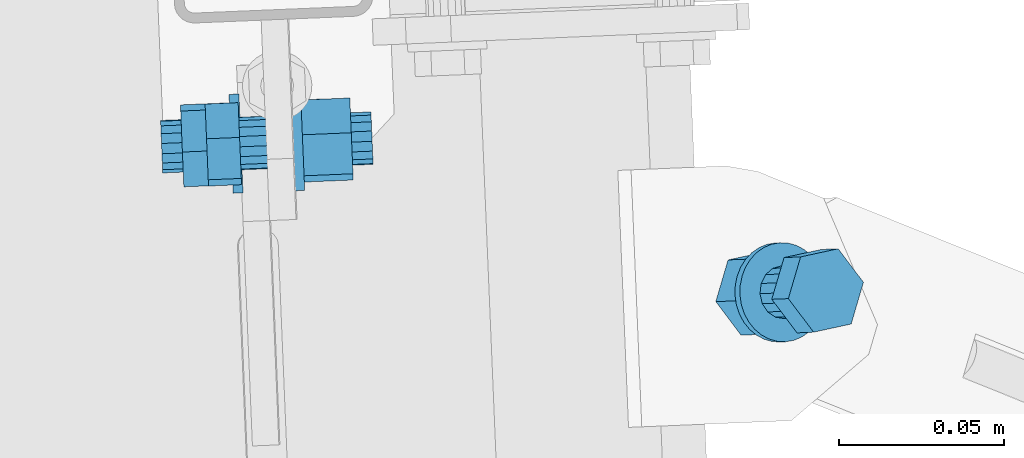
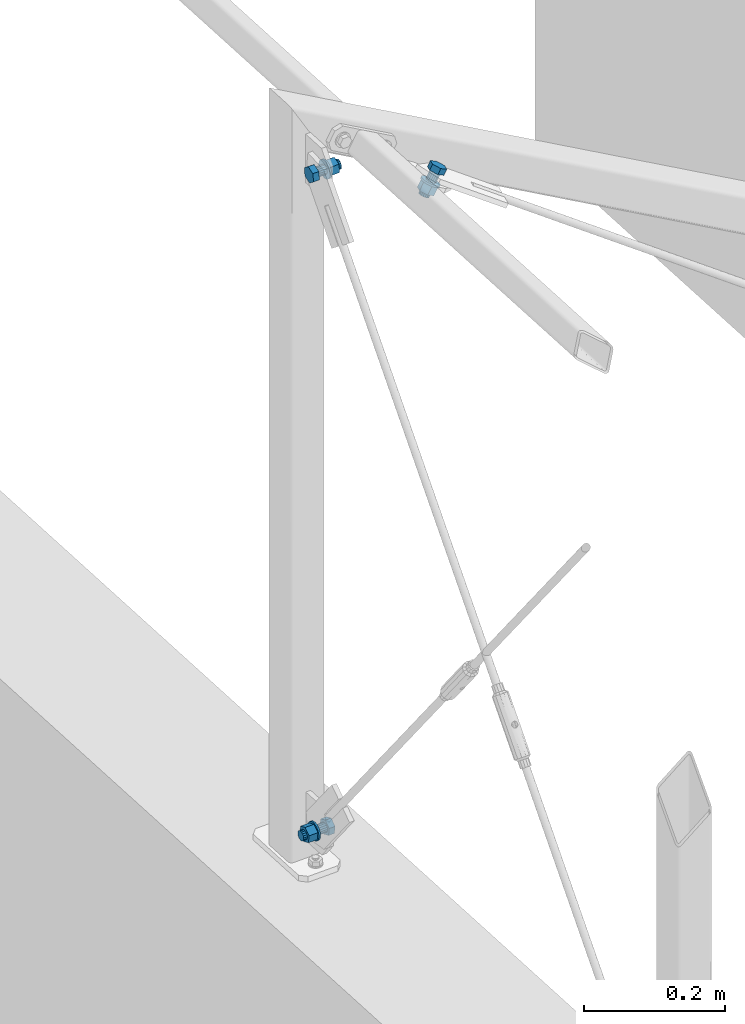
# One storey, part 239 of 288: 3 mechanical fasteners.
"""IFC2X3 building model written with IfcOpenShell, lengths in millimetres."""

from ifc_helpers import new_model, entity, si_unit, converted_unit, origin_with_axes, place, context, project, spatial, faceted_brep, element, save


model = new_model("IFC2X3")

# Units and contexts
model_context = context("Model", 3, precision=1e-09, world=origin_with_axes())
ifc_project = project(units=[si_unit("LENGTHUNIT", "METRE", prefix="MILLI"), si_unit("AREAUNIT", "SQUARE_METRE"), si_unit("VOLUMEUNIT", "CUBIC_METRE"), converted_unit("PLANEANGLEUNIT", "DEGREE", entity("IfcPlaneAngleMeasure", 0.01745329), si_unit("PLANEANGLEUNIT", "RADIAN"), dimensions=[0, 0, 0, 0, 0, 0, 0])], contexts=[model_context])

# Site, building, storey
site_placement = place(None, origin_with_axes())
site = spatial("IfcSite", under=ifc_project, at=site_placement, Name="Remont ?wietlik?w nad MC w NCPP w Opolu", CompositionType="ELEMENT")
building_placement = place(site_placement, origin_with_axes())
building = spatial("IfcBuilding", under=site, at=building_placement, Name="Konstrukcja 1", CompositionType="ELEMENT")
storey_placement = place(building_placement, origin_with_axes())
storey = spatial("IfcBuildingStorey", under=building, at=storey_placement, Name="Default Storey", CompositionType="ELEMENT", Elevation=0.0)

# Mechanical fasteners
mechanical_fastener_1_placement = place(None, origin_with_axes())
element("IfcMechanicalFastener", 1, at=mechanical_fastener_1_placement, inside=storey, ObjectType="Bolt#1", NominalDiameter=16.0, NominalLength=40.0, context=model_context, shape_type="Brep", body=[
    faceted_brep([(-604.976108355, 11217.415886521, 1209.294852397), (-614.967421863, 11216.999167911, 1209.294852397), (-615.484584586, 11229.39874589, 1214.282199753), (-605.493271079, 11229.815464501, 1214.282199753), (-615.563178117, 11231.283117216, 1227.523558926), (-605.571864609, 11231.699835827, 1227.523558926), (-615.124608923, 11220.767910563, 1235.777570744), (-605.133295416, 11221.184629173, 1235.777570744), (-614.607446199, 11208.368332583, 1230.790223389), (-604.616132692, 11208.785051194, 1230.790223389), (-614.528852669, 11206.483961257, 1217.548864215), (-604.537539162, 11206.900679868, 1217.548864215)], [[[0, 1, 2, 3]], [[3, 2, 4, 5]], [[5, 4, 6, 7]], [[7, 6, 8, 9]], [[9, 8, 10, 11]], [[11, 10, 1, 0]], [[4, 2, 1, 10, 8, 6]], [[0, 3, 5, 7, 9, 11]]]),
    faceted_brep([(-605.26043499, 11224.232948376, 1228.831149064), (-589.274333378, 11224.899698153, 1228.831149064), (-589.35905907, 11226.931095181, 1226.462675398), (-605.345160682, 11226.264345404, 1226.462675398), (-589.399565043, 11227.902273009, 1223.496433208), (-605.385666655, 11227.235523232, 1223.496433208), (-589.38968463, 11227.665378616, 1220.384005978), (-605.375786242, 11226.998628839, 1220.384005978), (-589.330922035, 11226.256477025, 1217.599232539), (-605.317023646, 11225.589727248, 1217.599232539), (-589.232223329, 11223.890060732, 1215.566069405), (-605.218324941, 11223.223310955, 1215.566069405), (-589.108614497, 11220.926395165, 1214.594047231), (-605.094716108, 11220.259645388, 1214.594047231), (-588.978913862, 11217.816671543, 1214.831147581), (-604.965015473, 11217.149921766, 1214.831147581), (-588.86286717, 11215.034317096, 1216.241274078), (-604.848968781, 11214.367567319, 1216.241274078), (-588.778141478, 11213.002920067, 1218.609747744), (-604.76424309, 11212.33617029, 1218.609747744), (-588.737635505, 11212.031742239, 1221.575989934), (-604.723737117, 11211.364992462, 1221.575989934), (-588.747515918, 11212.268636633, 1224.688417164), (-604.73361753, 11211.601886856, 1224.688417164), (-588.806278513, 11213.677538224, 1227.473190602), (-604.792380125, 11213.010788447, 1227.473190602), (-588.904977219, 11216.043954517, 1229.506353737), (-604.891078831, 11215.37720474, 1229.506353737), (-589.028586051, 11219.007620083, 1230.478375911), (-605.014687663, 11218.340870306, 1230.478375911), (-589.158286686, 11222.117343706, 1230.24127556), (-605.144388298, 11221.450593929, 1230.24127556)], [[[0, 1, 2, 3]], [[3, 2, 4, 5]], [[5, 4, 6, 7]], [[7, 6, 8, 9]], [[9, 8, 10, 11]], [[11, 10, 12, 13]], [[13, 12, 14, 15]], [[15, 14, 16, 17]], [[17, 16, 18, 19]], [[19, 18, 20, 21]], [[21, 20, 22, 23]], [[23, 22, 24, 25]], [[25, 24, 26, 27]], [[27, 26, 28, 29]], [[29, 28, 30, 31]], [[31, 30, 1, 0]], [[0, 3, 5, 7, 9, 11, 13, 15, 17, 19, 21, 23, 25, 27, 29, 31]], [[1, 30, 28, 26, 24, 22, 20, 18, 16, 14, 12, 10, 8, 6, 4, 2]]]),
    faceted_brep([(-589.454349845, 11229.215802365, 1234.339219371), (-586.456955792, 11229.340817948, 1234.339219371), (-586.545499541, 11231.463757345, 1232.306508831), (-589.542893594, 11231.338741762, 1232.306508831), (-586.615816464, 11233.149687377, 1229.898331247), (-589.613210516, 11233.024671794, 1229.898331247), (-586.665204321, 11234.333818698, 1227.207231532), (-589.662598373, 11234.208803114, 1227.207231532), (-586.691765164, 11234.970645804, 1224.33662714), (-589.689159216, 11234.845630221, 1224.33662714), (-586.694478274, 11235.035695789, 1221.396833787), (-589.691872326, 11234.910680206, 1221.396833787), (-586.673239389, 11234.526468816, 1218.500826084), (-589.670633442, 11234.401453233, 1218.500826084), (-586.628864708, 11233.462534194, 1215.759895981), (-589.62625876, 11233.337518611, 1215.759895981), (-586.563059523, 11231.884778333, 1213.279375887), (-589.560453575, 11231.75976275, 1213.279375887), (-586.478352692, 11229.853833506, 1211.154590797), (-589.475746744, 11229.728817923, 1211.154590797), (-586.37799945, 11227.447747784, 1209.46719501), (-589.375393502, 11227.3227322, 1209.46719501), (-586.265856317, 11224.758985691, 1208.2820342), (-589.263250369, 11224.633970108, 1208.2820342), (-586.146232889, 11221.890874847, 1207.644653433), (-589.143626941, 11221.765859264, 1207.644653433), (-586.023726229, 11218.953635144, 1207.579546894), (-589.021120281, 11218.82861956, 1207.579546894), (-585.903044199, 11216.060143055, 1208.08921659), (-588.900438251, 11215.935127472, 1208.08921659), (-585.78882454, 11213.32159386, 1209.154076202), (-588.786218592, 11213.196578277, 1209.154076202), (-585.685456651, 11210.843228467, 1210.733203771), (-588.682850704, 11210.718212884, 1210.733203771), (-585.596912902, 11208.72028907, 1212.765914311), (-588.594306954, 11208.595273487, 1212.765914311), (-585.52659598, 11207.034359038, 1215.174091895), (-588.523990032, 11206.909343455, 1215.174091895), (-585.477208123, 11205.850227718, 1217.865191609), (-588.474602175, 11205.725212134, 1217.865191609), (-585.45064728, 11205.213400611, 1220.735796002), (-588.448041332, 11205.088385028, 1220.735796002), (-585.447934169, 11205.148350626, 1223.675589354), (-588.445328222, 11205.023335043, 1223.675589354), (-585.469173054, 11205.657577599, 1226.571597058), (-588.466567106, 11205.532562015, 1226.571597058), (-585.513547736, 11206.721512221, 1229.31252716), (-588.510941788, 11206.596496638, 1229.31252716), (-585.579352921, 11208.299268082, 1231.793047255), (-588.576746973, 11208.174252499, 1231.793047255), (-585.664059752, 11210.330212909, 1233.917832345), (-588.661453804, 11210.205197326, 1233.917832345), (-585.764412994, 11212.736298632, 1235.605228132), (-588.761807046, 11212.611283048, 1235.605228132), (-585.876556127, 11215.425060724, 1236.790388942), (-588.873950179, 11215.300045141, 1236.790388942), (-585.996179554, 11218.293171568, 1237.427769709), (-588.993573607, 11218.168155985, 1237.427769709), (-586.118686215, 11221.230411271, 1237.492876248), (-589.116080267, 11221.105395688, 1237.492876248), (-586.239368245, 11224.12390336, 1236.983206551), (-589.236762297, 11223.998887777, 1236.983206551), (-586.353587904, 11226.862452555, 1235.91834694), (-589.350981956, 11226.737436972, 1235.91834694)], [[[0, 1, 2, 3]], [[3, 2, 4, 5]], [[5, 4, 6, 7]], [[7, 6, 8, 9]], [[9, 8, 10, 11]], [[11, 10, 12, 13]], [[13, 12, 14, 15]], [[15, 14, 16, 17]], [[17, 16, 18, 19]], [[19, 18, 20, 21]], [[21, 20, 22, 23]], [[23, 22, 24, 25]], [[25, 24, 26, 27]], [[27, 26, 28, 29]], [[29, 28, 30, 31]], [[31, 30, 32, 33]], [[33, 32, 34, 35]], [[35, 34, 36, 37]], [[37, 36, 38, 39]], [[39, 38, 40, 41]], [[41, 40, 42, 43]], [[43, 42, 44, 45]], [[45, 44, 46, 47]], [[47, 46, 48, 49]], [[49, 48, 50, 51]], [[51, 50, 52, 53]], [[53, 52, 54, 55]], [[55, 54, 56, 57]], [[57, 56, 58, 59]], [[59, 58, 60, 61]], [[61, 60, 62, 63]], [[63, 62, 1, 0]], [[0, 3, 5, 7, 9, 11, 13, 15, 17, 19, 21, 23, 25, 27, 29, 31, 33, 35, 37, 39, 41, 43, 45, 47, 49, 51, 53, 55, 57, 59, 61, 63]], [[1, 62, 60, 58, 56, 54, 52, 50, 48, 46, 44, 42, 40, 38, 36, 34, 32, 30, 28, 26, 24, 22, 20, 18, 16, 14, 12, 10, 8, 6, 4, 2]]]),
    faceted_brep([(-571.205468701, 11218.824395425, 1209.294852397), (-585.992612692, 11218.207651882, 1209.294852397), (-586.509775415, 11230.607229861, 1214.282199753), (-571.722631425, 11231.223973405, 1214.282199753), (-586.588368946, 11232.491601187, 1227.523558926), (-571.801224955, 11233.108344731, 1227.523558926), (-586.149799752, 11221.976394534, 1235.777570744), (-571.362655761, 11222.593138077, 1235.777570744), (-585.632637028, 11209.576816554, 1230.790223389), (-570.845493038, 11210.193560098, 1230.790223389), (-585.554043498, 11207.692445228, 1217.548864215), (-570.766899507, 11208.309188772, 1217.548864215)], [[[0, 1, 2, 3]], [[3, 2, 4, 5]], [[5, 4, 6, 7]], [[7, 6, 8, 9]], [[9, 8, 10, 11]], [[11, 10, 1, 0]], [[4, 2, 1, 10, 8, 6]], [[0, 3, 5, 7, 9, 11]]]),
    faceted_brep([(-571.489795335, 11225.641457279, 1228.831149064), (-565.295180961, 11225.899822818, 1228.831149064), (-565.379906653, 11227.931219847, 1226.462675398), (-571.574521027, 11227.672854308, 1226.462675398), (-565.420412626, 11228.902397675, 1223.496433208), (-571.615027, 11228.644032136, 1223.496433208), (-565.410532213, 11228.665503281, 1220.384005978), (-571.605146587, 11228.407137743, 1220.384005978), (-565.351769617, 11227.25660169, 1217.599232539), (-571.546383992, 11226.998236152, 1217.599232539), (-565.253070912, 11224.890185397, 1215.566069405), (-571.447685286, 11224.631819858, 1215.566069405), (-565.129462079, 11221.926519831, 1214.594047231), (-571.324076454, 11221.668154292, 1214.594047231), (-564.999761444, 11218.816796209, 1214.831147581), (-571.194375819, 11218.55843067, 1214.831147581), (-564.883714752, 11216.034441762, 1216.241274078), (-571.078329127, 11215.776076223, 1216.241274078), (-564.798989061, 11214.003044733, 1218.609747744), (-570.993603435, 11213.744679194, 1218.609747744), (-564.758483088, 11213.031866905, 1221.575989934), (-570.953097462, 11212.773501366, 1221.575989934), (-564.768363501, 11213.268761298, 1224.688417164), (-570.962977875, 11213.01039576, 1224.688417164), (-564.827126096, 11214.67766289, 1227.473190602), (-571.021740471, 11214.419297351, 1227.473190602), (-564.925824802, 11217.044079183, 1229.506353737), (-571.120439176, 11216.785713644, 1229.506353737), (-565.049433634, 11220.007744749, 1230.478375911), (-571.244048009, 11219.74937921, 1230.478375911), (-565.179134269, 11223.117468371, 1230.24127556), (-571.373748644, 11222.859102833, 1230.24127556)], [[[0, 1, 2, 3]], [[3, 2, 4, 5]], [[5, 4, 6, 7]], [[7, 6, 8, 9]], [[9, 8, 10, 11]], [[11, 10, 12, 13]], [[13, 12, 14, 15]], [[15, 14, 16, 17]], [[17, 16, 18, 19]], [[19, 18, 20, 21]], [[21, 20, 22, 23]], [[23, 22, 24, 25]], [[25, 24, 26, 27]], [[27, 26, 28, 29]], [[29, 28, 30, 31]], [[31, 30, 1, 0]], [[0, 3, 5, 7, 9, 11, 13, 15, 17, 19, 21, 23, 25, 27, 29, 31]], [[1, 30, 28, 26, 24, 22, 20, 18, 16, 14, 12, 10, 8, 6, 4, 2]]]),
])
mechanical_fastener_2_placement = place(None, origin_with_axes())
element("IfcMechanicalFastener", 2, at=mechanical_fastener_2_placement, inside=storey, ObjectType="Bolt#1", NominalDiameter=16.0, NominalLength=40.0, context=model_context, shape_type="Brep", body=[
    faceted_brep([(-588.64994347, 11218.161192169, 95.778077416), (-578.658481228, 11218.574329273, 95.778077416), (-579.170965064, 11230.968430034, 90.776652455), (-589.162427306, 11230.55529293, 90.776652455), (-579.248262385, 11232.837817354, 77.533161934), (-589.239724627, 11232.42468025, 77.533161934), (-578.81307587, 11222.313103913, 69.291096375), (-588.804538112, 11221.899966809, 69.291096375), (-578.300592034, 11209.919003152, 74.292521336), (-588.292054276, 11209.505866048, 74.292521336), (-578.223294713, 11208.049615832, 87.536011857), (-588.214756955, 11207.636478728, 87.536011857)], [[[0, 1, 2, 3]], [[3, 2, 4, 5]], [[5, 4, 6, 7]], [[7, 6, 8, 9]], [[9, 8, 10, 11]], [[11, 10, 1, 0]], [[4, 2, 1, 10, 8, 6]], [[0, 3, 5, 7, 9, 11]]]),
    faceted_brep([(-588.930910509, 11224.956204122, 76.234051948), (-604.917250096, 11224.295184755, 76.234051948), (-605.001358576, 11226.329295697, 78.600217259), (-589.015018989, 11226.990315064, 78.600217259), (-605.041655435, 11227.303849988, 81.565354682), (-589.055315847, 11227.964869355, 81.565354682), (-605.03200584, 11227.070480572, 84.678048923), (-589.045666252, 11227.731499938, 84.678048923), (-604.973878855, 11225.664715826, 87.464420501), (-588.987539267, 11226.325735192, 87.464420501), (-604.876123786, 11223.30057069, 89.500269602), (-588.889784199, 11223.961590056, 89.500269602), (-604.753622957, 11220.337964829, 90.475656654), (-588.76728337, 11220.998984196, 90.475656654), (-604.625026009, 11217.227928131, 90.242087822), (-588.638686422, 11217.888947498, 90.242087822), (-604.50991066, 11214.44393549, 88.835121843), (-588.523571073, 11215.104954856, 88.835121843), (-604.42580218, 11212.409824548, 86.468956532), (-588.439462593, 11213.070843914, 86.468956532), (-604.385505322, 11211.435270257, 83.503819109), (-588.399165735, 11212.096289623, 83.503819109), (-604.395154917, 11211.668639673, 80.391124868), (-588.40881533, 11212.32965904, 80.391124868), (-604.453281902, 11213.074404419, 77.60475329), (-588.466942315, 11213.735423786, 77.60475329), (-604.551036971, 11215.438549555, 75.568904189), (-588.564697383, 11216.099568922, 75.568904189), (-604.673537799, 11218.401155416, 74.593517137), (-588.687198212, 11219.062174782, 74.593517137), (-604.802134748, 11221.511192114, 74.827085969), (-588.815795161, 11222.17221148, 74.827085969)], [[[0, 1, 2, 3]], [[3, 2, 4, 5]], [[5, 4, 6, 7]], [[7, 6, 8, 9]], [[9, 8, 10, 11]], [[11, 10, 12, 13]], [[13, 12, 14, 15]], [[15, 14, 16, 17]], [[17, 16, 18, 19]], [[19, 18, 20, 21]], [[21, 20, 22, 23]], [[23, 22, 24, 25]], [[25, 24, 26, 27]], [[27, 26, 28, 29]], [[29, 28, 30, 31]], [[31, 30, 1, 0]], [[0, 3, 5, 7, 9, 11, 13, 15, 17, 19, 21, 23, 25, 27, 29, 31]], [[1, 30, 28, 26, 24, 22, 20, 18, 16, 14, 12, 10, 8, 6, 4, 2]]]),
    faceted_brep([(-605.095461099, 11228.605106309, 70.721083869), (-608.092899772, 11228.481165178, 70.721083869), (-608.180777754, 11230.60643916, 72.751382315), (-605.183339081, 11230.730380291, 72.751382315), (-608.250603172, 11232.295123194, 75.157643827), (-605.2531645, 11232.419064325, 75.157643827), (-608.299692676, 11233.4823221, 77.847397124), (-605.302254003, 11233.606263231, 77.847397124), (-608.326159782, 11234.12241249, 80.717276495), (-605.328721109, 11234.246353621, 80.717276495), (-608.328987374, 11234.190796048, 83.656994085), (-605.331548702, 11234.314737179, 83.656994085), (-608.308066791, 11233.684844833, 86.553578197), (-605.310628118, 11233.808785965, 86.553578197), (-608.264201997, 11232.624002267, 89.295714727), (-605.266763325, 11232.747943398, 89.295714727), (-608.199078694, 11231.049035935, 91.778024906), (-605.201640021, 11231.172977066, 91.778024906), (-608.115199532, 11229.020470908, 93.905114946), (-605.117760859, 11229.144412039, 93.905114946), (-608.015787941, 11226.616263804, 95.59524197), (-605.018349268, 11226.740204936, 95.59524197), (-607.904664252, 11223.928806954, 96.783455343), (-604.907225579, 11224.052748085, 96.783455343), (-607.786098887, 11221.061377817, 97.424092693), (-604.788660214, 11221.185318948, 97.424092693), (-607.664648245, 11218.124170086, 97.492534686), (-604.667209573, 11218.248111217, 97.492534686), (-607.544979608, 11215.230059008, 96.986151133), (-604.547540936, 11215.354000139, 96.986151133), (-607.431691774, 11212.490263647, 95.924402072), (-604.434253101, 11212.614204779, 95.924402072), (-607.32913833, 11210.010072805, 94.348089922), (-604.331699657, 11210.134013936, 94.348089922), (-607.241260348, 11207.884798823, 92.317791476), (-604.243821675, 11208.008739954, 92.317791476), (-607.17143493, 11206.196114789, 89.911529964), (-604.173996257, 11206.32005592, 89.911529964), (-607.122345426, 11205.008915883, 87.221776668), (-604.124906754, 11205.132857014, 87.221776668), (-607.09587832, 11204.368825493, 84.351897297), (-604.098439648, 11204.492766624, 84.351897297), (-607.093050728, 11204.300441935, 81.412179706), (-604.095612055, 11204.424383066, 81.412179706), (-607.113971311, 11204.806393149, 78.515595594), (-604.116532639, 11204.930334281, 78.515595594), (-607.157836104, 11205.867235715, 75.773459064), (-604.160397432, 11205.991176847, 75.773459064), (-607.222959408, 11207.442202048, 73.291148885), (-604.225520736, 11207.566143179, 73.291148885), (-607.30683857, 11209.470767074, 71.164058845), (-604.309399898, 11209.594708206, 71.164058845), (-607.406250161, 11211.874974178, 69.473931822), (-604.408811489, 11211.998915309, 69.473931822), (-607.51737385, 11214.562431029, 68.285718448), (-604.519935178, 11214.68637216, 68.285718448), (-607.635939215, 11217.429860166, 67.645081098), (-604.638500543, 11217.553801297, 67.645081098), (-607.757389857, 11220.367067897, 67.576639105), (-604.759951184, 11220.491009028, 67.576639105), (-607.877058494, 11223.261178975, 68.083022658), (-604.879619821, 11223.385120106, 68.083022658), (-607.990346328, 11226.000974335, 69.144771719), (-604.992907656, 11226.124915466, 69.144771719)], [[[0, 1, 2, 3]], [[3, 2, 4, 5]], [[5, 4, 6, 7]], [[7, 6, 8, 9]], [[9, 8, 10, 11]], [[11, 10, 12, 13]], [[13, 12, 14, 15]], [[15, 14, 16, 17]], [[17, 16, 18, 19]], [[19, 18, 20, 21]], [[21, 20, 22, 23]], [[23, 22, 24, 25]], [[25, 24, 26, 27]], [[27, 26, 28, 29]], [[29, 28, 30, 31]], [[31, 30, 32, 33]], [[33, 32, 34, 35]], [[35, 34, 36, 37]], [[37, 36, 38, 39]], [[39, 38, 40, 41]], [[41, 40, 42, 43]], [[43, 42, 44, 45]], [[45, 44, 46, 47]], [[47, 46, 48, 49]], [[49, 48, 50, 51]], [[51, 50, 52, 53]], [[53, 52, 54, 55]], [[55, 54, 56, 57]], [[57, 56, 58, 59]], [[59, 58, 60, 61]], [[61, 60, 62, 63]], [[63, 62, 1, 0]], [[0, 3, 5, 7, 9, 11, 13, 15, 17, 19, 21, 23, 25, 27, 29, 31, 33, 35, 37, 39, 41, 43, 45, 47, 49, 51, 53, 55, 57, 59, 61, 63]], [[1, 62, 60, 58, 56, 54, 52, 50, 48, 46, 44, 42, 40, 38, 36, 34, 32, 30, 28, 26, 24, 22, 20, 18, 16, 14, 12, 10, 8, 6, 4, 2]]]),
    faceted_brep([(-622.421085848, 11216.764788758, 95.778077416), (-607.63372173, 11217.376231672, 95.778077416), (-608.146205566, 11229.770332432, 90.776652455), (-622.933569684, 11229.158889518, 90.776652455), (-608.223502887, 11231.639719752, 77.533161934), (-623.010867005, 11231.028276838, 77.533161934), (-607.788316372, 11221.115006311, 69.291096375), (-622.57568049, 11220.503563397, 69.291096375), (-607.275832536, 11208.72090555, 74.292521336), (-622.063196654, 11208.109462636, 74.292521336), (-607.198535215, 11206.85151823, 87.536011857), (-621.985899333, 11206.240075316, 87.536011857)], [[[0, 1, 2, 3]], [[3, 2, 4, 5]], [[5, 4, 6, 7]], [[7, 6, 8, 9]], [[9, 8, 10, 11]], [[11, 10, 1, 0]], [[4, 2, 1, 10, 8, 6]], [[0, 3, 5, 7, 9, 11]]]),
    faceted_brep([(-622.702052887, 11223.55980071, 76.234051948), (-628.896759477, 11223.303655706, 76.234051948), (-628.980867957, 11225.337766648, 78.600217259), (-622.786161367, 11225.593911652, 78.600217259), (-629.021164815, 11226.312320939, 81.565354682), (-622.826458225, 11226.568465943, 81.565354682), (-629.01151522, 11226.078951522, 84.678048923), (-622.81680863, 11226.335096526, 84.678048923), (-628.953388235, 11224.673186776, 87.464420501), (-622.758681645, 11224.92933178, 87.464420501), (-628.855633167, 11222.30904164, 89.500269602), (-622.660926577, 11222.565186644, 89.500269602), (-628.733132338, 11219.34643578, 90.475656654), (-622.538425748, 11219.602580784, 90.475656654), (-628.60453539, 11216.236399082, 90.242087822), (-622.4098288, 11216.492544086, 90.242087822), (-628.489420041, 11213.45240644, 88.835121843), (-622.294713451, 11213.708551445, 88.835121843), (-628.405311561, 11211.418295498, 86.468956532), (-622.210604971, 11211.674440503, 86.468956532), (-628.365014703, 11210.443741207, 83.503819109), (-622.170308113, 11210.699886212, 83.503819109), (-628.374664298, 11210.677110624, 80.391124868), (-622.179957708, 11210.933255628, 80.391124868), (-628.432791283, 11212.08287537, 77.60475329), (-622.238084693, 11212.339020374, 77.60475329), (-628.530546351, 11214.447020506, 75.568904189), (-622.335839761, 11214.70316551, 75.568904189), (-628.65304718, 11217.409626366, 74.593517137), (-622.45834059, 11217.665771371, 74.593517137), (-628.781644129, 11220.519663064, 74.827085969), (-622.586937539, 11220.775808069, 74.827085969)], [[[0, 1, 2, 3]], [[3, 2, 4, 5]], [[5, 4, 6, 7]], [[7, 6, 8, 9]], [[9, 8, 10, 11]], [[11, 10, 12, 13]], [[13, 12, 14, 15]], [[15, 14, 16, 17]], [[17, 16, 18, 19]], [[19, 18, 20, 21]], [[21, 20, 22, 23]], [[23, 22, 24, 25]], [[25, 24, 26, 27]], [[27, 26, 28, 29]], [[29, 28, 30, 31]], [[31, 30, 1, 0]], [[0, 3, 5, 7, 9, 11, 13, 15, 17, 19, 21, 23, 25, 27, 29, 31]], [[1, 30, 28, 26, 24, 22, 20, 18, 16, 14, 12, 10, 8, 6, 4, 2]]]),
])
mechanical_fastener_3_placement = place(None, origin_with_axes())
element("IfcMechanicalFastener", 3, at=mechanical_fastener_3_placement, inside=storey, ObjectType="Bolt#1", NominalDiameter=16.0, NominalLength=40.0, context=model_context, shape_type="Brep", body=[
    faceted_brep([(-425.210542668, 11164.554594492, 1188.24472593), (-420.202872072, 11164.76325416, 1196.898031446), (-431.554218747, 11162.29354336, 1203.526612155), (-436.561889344, 11162.084883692, 1194.87330664), (-439.200470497, 11172.440030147, 1207.706835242), (-444.208141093, 11172.23137048, 1199.053529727), (-435.495375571, 11185.056227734, 1205.25847762), (-440.503046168, 11184.847568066, 1196.605172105), (-424.144028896, 11187.525938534, 1198.629896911), (-429.151699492, 11187.317278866, 1189.976591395), (-416.497777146, 11177.379451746, 1194.449673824), (-421.505447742, 11177.170792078, 1185.796368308)], [[[0, 1, 2, 3]], [[3, 2, 4, 5]], [[5, 4, 6, 7]], [[7, 6, 8, 9]], [[9, 8, 10, 11]], [[11, 10, 1, 0]], [[4, 2, 1, 10, 8, 6]], [[0, 3, 5, 7, 9, 11]]]),
    faceted_brep([(-439.417254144, 11177.352110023, 1196.157564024), (-447.429527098, 11177.018254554, 1182.3122752), (-447.778218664, 11173.928675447, 1182.588563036), (-439.76594571, 11174.262530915, 1196.43385186), (-447.075054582, 11170.905861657, 1182.254531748), (-439.062781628, 11171.239717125, 1196.099820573), (-445.427085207, 11168.410009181, 1181.361034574), (-437.414812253, 11168.74386465, 1195.206323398), (-443.08519894, 11166.821088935, 1180.044098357), (-435.072925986, 11167.154944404, 1193.889387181), (-440.405926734, 11166.380999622, 1178.504214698), (-432.39365378, 11166.714855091, 1192.349503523), (-437.797163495, 11167.156740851, 1176.975816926), (-429.784890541, 11167.49059632, 1190.821105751), (-435.656069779, 11169.030213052, 1175.691589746), (-427.643796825, 11169.36406852, 1189.536878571), (-434.308607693, 11171.716197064, 1174.847045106), (-426.296334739, 11172.050052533, 1188.69233393), (-433.959916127, 11174.805776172, 1174.57075727), (-425.947643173, 11175.139631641, 1188.416046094), (-434.663080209, 11177.828589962, 1174.904788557), (-426.650807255, 11178.162445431, 1188.750077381), (-436.311049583, 11180.324442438, 1175.798285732), (-428.298776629, 11180.658297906, 1189.643574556), (-438.652935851, 11181.913362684, 1177.115221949), (-430.640662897, 11182.247218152, 1190.960510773), (-441.332208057, 11182.353451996, 1178.655105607), (-433.319935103, 11182.687307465, 1192.500394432), (-443.940971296, 11181.577710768, 1180.183503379), (-435.928698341, 11181.911566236, 1194.028792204), (-446.082065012, 11179.704238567, 1181.467730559), (-438.069792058, 11180.038094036, 1195.313019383)], [[[0, 1, 2, 3]], [[3, 2, 4, 5]], [[5, 4, 6, 7]], [[7, 6, 8, 9]], [[9, 8, 10, 11]], [[11, 10, 12, 13]], [[13, 12, 14, 15]], [[15, 14, 16, 17]], [[17, 16, 18, 19]], [[19, 18, 20, 21]], [[21, 20, 22, 23]], [[23, 22, 24, 25]], [[25, 24, 26, 27]], [[27, 26, 28, 29]], [[29, 28, 30, 31]], [[31, 30, 1, 0]], [[0, 3, 5, 7, 9, 11, 13, 15, 17, 19, 21, 23, 25, 27, 29, 31]], [[1, 30, 28, 26, 24, 22, 20, 18, 16, 14, 12, 10, 8, 6, 4, 2]]]),
    faceted_brep([(-453.169929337, 11179.337904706, 1185.578313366), (-454.672230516, 11179.275306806, 1182.982321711), (-455.246521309, 11176.419462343, 1183.383527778), (-453.74422013, 11176.482060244, 1185.979519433), (-455.326027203, 11173.482345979, 1183.500361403), (-453.823726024, 11173.54494388, 1186.096353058), (-454.907692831, 11170.576829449, 1183.328332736), (-453.405391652, 11170.639427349, 1185.92432439), (-454.007594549, 11167.814570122, 1182.87405274), (-452.50529337, 11167.877168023, 1185.470044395), (-452.660322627, 11165.301720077, 1182.154979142), (-451.158021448, 11165.364317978, 1184.750970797), (-450.917651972, 11163.134846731, 1181.198745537), (-449.415350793, 11163.197444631, 1183.794737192), (-448.846552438, 11161.397221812, 1180.042099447), (-447.344251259, 11161.459819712, 1182.638091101), (-446.52661522, 11160.15562127, 1178.72949013), (-445.024314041, 11160.21821917, 1181.325481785), (-444.046994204, 11159.457759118, 1177.311360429), (-442.544693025, 11159.520357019, 1179.907352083), (-441.502979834, 11159.330453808, 1175.842208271), (-440.000678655, 11159.393051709, 1178.438199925), (-438.992337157, 11159.778597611, 1174.37849235), (-437.490035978, 11159.841195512, 1176.974484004), (-436.611548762, 11160.784968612, 1172.976462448), (-435.109247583, 11160.847566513, 1175.572454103), (-434.452107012, 11162.310892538, 1171.689997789), (-432.949805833, 11162.373490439, 1174.285989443), (-432.596998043, 11164.297728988, 1170.568536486), (-431.094696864, 11164.360326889, 1173.164528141), (-431.117512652, 11166.669124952, 1169.655175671), (-429.615211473, 11166.731722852, 1172.251167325), (-430.070506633, 11169.333949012, 1168.985015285), (-428.568205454, 11169.396546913, 1171.58100694), (-429.496215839, 11172.189793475, 1168.583809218), (-427.993914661, 11172.252391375, 1171.179800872), (-429.416709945, 11175.126909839, 1168.466975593), (-427.914408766, 11175.189507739, 1171.062967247), (-429.835044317, 11178.032426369, 1168.63900426), (-428.332743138, 11178.09502427, 1171.234995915), (-430.7351426, 11180.794685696, 1169.093284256), (-429.232841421, 11180.857283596, 1171.68927591), (-432.082414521, 11183.307535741, 1169.812357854), (-430.580113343, 11183.370133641, 1172.408349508), (-433.825085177, 11185.474409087, 1170.768591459), (-432.322783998, 11185.537006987, 1173.364583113), (-435.89618471, 11187.212034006, 1171.925237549), (-434.393883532, 11187.274631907, 1174.521229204), (-438.216121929, 11188.453634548, 1173.237846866), (-436.71382075, 11188.516232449, 1175.83383852), (-440.695742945, 11189.1514967, 1174.655976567), (-439.193441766, 11189.2140946, 1177.251968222), (-443.239757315, 11189.27880201, 1176.125128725), (-441.737456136, 11189.34139991, 1178.72112038), (-445.750399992, 11188.830658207, 1177.588844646), (-444.248098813, 11188.893256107, 1180.184836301), (-448.131188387, 11187.824287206, 1178.990874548), (-446.628887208, 11187.886885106, 1181.586866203), (-450.290630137, 11186.29836328, 1180.277339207), (-448.788328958, 11186.36096118, 1182.873330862), (-452.145739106, 11184.31152683, 1181.39880051), (-450.643437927, 11184.37412473, 1183.994792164), (-453.625224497, 11181.940130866, 1182.312161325), (-452.122923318, 11182.002728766, 1184.90815298)], [[[0, 1, 2, 3]], [[3, 2, 4, 5]], [[5, 4, 6, 7]], [[7, 6, 8, 9]], [[9, 8, 10, 11]], [[11, 10, 12, 13]], [[13, 12, 14, 15]], [[15, 14, 16, 17]], [[17, 16, 18, 19]], [[19, 18, 20, 21]], [[21, 20, 22, 23]], [[23, 22, 24, 25]], [[25, 24, 26, 27]], [[27, 26, 28, 29]], [[29, 28, 30, 31]], [[31, 30, 32, 33]], [[33, 32, 34, 35]], [[35, 34, 36, 37]], [[37, 36, 38, 39]], [[39, 38, 40, 41]], [[41, 40, 42, 43]], [[43, 42, 44, 45]], [[45, 44, 46, 47]], [[47, 46, 48, 49]], [[49, 48, 50, 51]], [[51, 50, 52, 53]], [[53, 52, 54, 55]], [[55, 54, 56, 57]], [[57, 56, 58, 59]], [[59, 58, 60, 61]], [[61, 60, 62, 63]], [[63, 62, 1, 0]], [[0, 3, 5, 7, 9, 11, 13, 15, 17, 19, 21, 23, 25, 27, 29, 31, 33, 35, 37, 39, 41, 43, 45, 47, 49, 51, 53, 55, 57, 59, 61, 63]], [[1, 62, 60, 58, 56, 54, 52, 50, 48, 46, 44, 42, 40, 38, 36, 34, 32, 30, 28, 26, 24, 22, 20, 18, 16, 14, 12, 10, 8, 6, 4, 2]]]),
    faceted_brep([(-442.136469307, 11163.849324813, 1158.996553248), (-434.725116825, 11164.158141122, 1171.803445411), (-446.0764635, 11161.688430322, 1178.43202612), (-453.487815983, 11161.379614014, 1165.625133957), (-453.72271525, 11171.83491711, 1182.612249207), (-461.134067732, 11171.526100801, 1169.805357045), (-450.017620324, 11184.451114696, 1180.163891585), (-457.428972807, 11184.142298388, 1167.356999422), (-438.666273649, 11186.920825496, 1173.535310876), (-446.077626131, 11186.612009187, 1160.728418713), (-431.020021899, 11176.774338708, 1169.355087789), (-438.431374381, 11176.4655224, 1156.548195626)], [[[0, 1, 2, 3]], [[3, 2, 4, 5]], [[5, 4, 6, 7]], [[7, 6, 8, 9]], [[9, 8, 10, 11]], [[11, 10, 1, 0]], [[4, 2, 1, 10, 8, 6]], [[0, 3, 5, 7, 9, 11]]]),
    faceted_brep([(-456.343180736, 11176.646840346, 1166.909391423), (-459.447936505, 11176.517471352, 1161.544342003), (-459.796628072, 11173.427892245, 1161.820629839), (-456.691872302, 11173.557261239, 1167.185679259), (-459.093463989, 11170.405078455, 1161.486598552), (-455.98870822, 11170.534447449, 1166.851647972), (-457.445494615, 11167.909225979, 1160.593101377), (-454.340738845, 11168.038594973, 1165.958150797), (-455.103608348, 11166.320305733, 1159.27616516), (-451.998852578, 11166.449674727, 1164.64121458), (-452.424336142, 11165.88021642, 1157.736281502), (-449.319580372, 11166.009585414, 1163.101330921), (-449.815572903, 11166.655957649, 1156.20788373), (-446.710817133, 11166.785326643, 1161.572933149), (-447.674479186, 11168.52942985, 1154.92365655), (-444.569723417, 11168.658798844, 1160.28870597), (-446.327017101, 11171.215413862, 1154.079111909), (-443.222261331, 11171.344782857, 1159.444161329), (-445.978325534, 11174.30499297, 1153.802824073), (-442.873569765, 11174.434361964, 1159.167873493), (-446.681489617, 11177.32780676, 1154.13685536), (-443.576733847, 11177.457175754, 1159.50190478), (-448.329458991, 11179.823659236, 1155.030352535), (-445.224703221, 11179.95302823, 1160.395401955), (-450.671345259, 11181.412579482, 1156.347288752), (-447.566589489, 11181.541948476, 1161.712338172), (-453.350617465, 11181.852668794, 1157.887172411), (-450.245861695, 11181.982037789, 1163.25222183), (-455.959380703, 11181.076927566, 1159.415570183), (-452.854624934, 11181.20629656, 1164.780619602), (-458.10047442, 11179.203455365, 1160.699797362), (-454.99571865, 11179.332824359, 1166.064846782)], [[[0, 1, 2, 3]], [[3, 2, 4, 5]], [[5, 4, 6, 7]], [[7, 6, 8, 9]], [[9, 8, 10, 11]], [[11, 10, 12, 13]], [[13, 12, 14, 15]], [[15, 14, 16, 17]], [[17, 16, 18, 19]], [[19, 18, 20, 21]], [[21, 20, 22, 23]], [[23, 22, 24, 25]], [[25, 24, 26, 27]], [[27, 26, 28, 29]], [[29, 28, 30, 31]], [[31, 30, 1, 0]], [[0, 3, 5, 7, 9, 11, 13, 15, 17, 19, 21, 23, 25, 27, 29, 31]], [[1, 30, 28, 26, 24, 22, 20, 18, 16, 14, 12, 10, 8, 6, 4, 2]]]),
])

save(model, "model.ifc")
